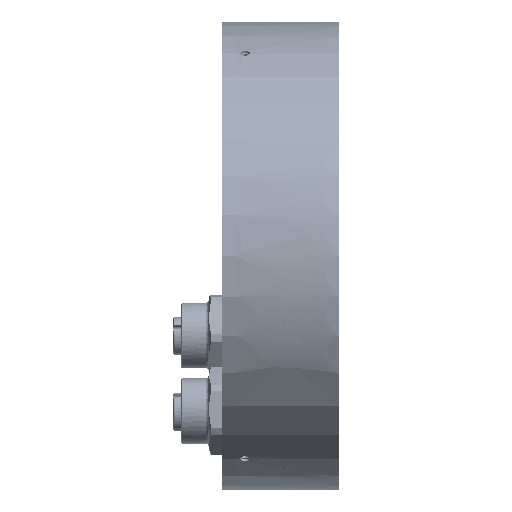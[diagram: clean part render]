
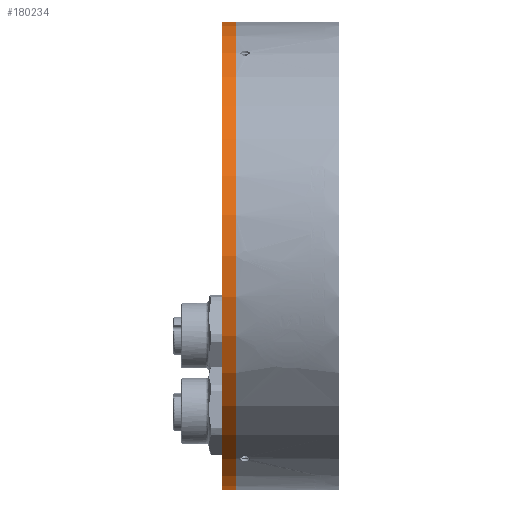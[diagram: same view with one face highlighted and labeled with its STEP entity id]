
A CAD part, front view. The second image highlights one B-rep face of the part: STEP entity #180234.
In plain terms, the highlighted cylindrical face has radius 50 mm (diameter 100 mm), a partial arc.
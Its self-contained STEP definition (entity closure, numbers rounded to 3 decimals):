
#9221 = VERTEX_POINT ( 'NONE', #74748 ) ;
#14225 = EDGE_LOOP ( 'NONE', ( #111917, #148657, #269518, #225859 ) ) ;
#21314 = DIRECTION ( 'NONE',  ( -1., 0., 0. ) ) ;
#23721 = CYLINDRICAL_SURFACE ( 'NONE', #78272, 50. ) ;
#29440 = AXIS2_PLACEMENT_3D ( 'NONE', #147427, #243060, #54920 ) ;
#30654 = VECTOR ( 'NONE', #104526, 1000. ) ;
#54920 = DIRECTION ( 'NONE',  ( 0., 0., 1. ) ) ;
#64718 = AXIS2_PLACEMENT_3D ( 'NONE', #222906, #197838, #105258 ) ;
#73741 = VERTEX_POINT ( 'NONE', #114935 ) ;
#74748 = CARTESIAN_POINT ( 'NONE',  ( 0., 0., 50. ) ) ;
#78272 = AXIS2_PLACEMENT_3D ( 'NONE', #145916, #269736, #291714 ) ;
#79511 = LINE ( 'NONE', #245658, #30654 ) ;
#88475 = CARTESIAN_POINT ( 'NONE',  ( -3., 0., 50. ) ) ;
#91287 = EDGE_CURVE ( 'NONE', #73741, #9221, #274880, .T. ) ;
#93103 = EDGE_CURVE ( 'NONE', #300810, #207483, #94277, .T. ) ;
#94277 = CIRCLE ( 'NONE', #29440, 50. ) ;
#104526 = DIRECTION ( 'NONE',  ( -1., 0., 0. ) ) ;
#105258 = DIRECTION ( 'NONE',  ( 0., 0., 1. ) ) ;
#111917 = ORIENTED_EDGE ( 'NONE', *, *, #185773, .F. ) ;
#114935 = CARTESIAN_POINT ( 'NONE',  ( 0., 0., -50. ) ) ;
#118326 = EDGE_CURVE ( 'NONE', #9221, #207483, #79511, .T. ) ;
#145916 = CARTESIAN_POINT ( 'NONE',  ( 6., 0., 0. ) ) ;
#147427 = CARTESIAN_POINT ( 'NONE',  ( -3., 0., 0. ) ) ;
#148657 = ORIENTED_EDGE ( 'NONE', *, *, #91287, .T. ) ;
#171712 = CARTESIAN_POINT ( 'NONE',  ( 6., 0., -50. ) ) ;
#174100 = FACE_OUTER_BOUND ( 'NONE', #14225, .T. ) ;
#180234 = ADVANCED_FACE ( 'NONE', ( #174100 ), #23721, .T. ) ;
#185773 = EDGE_CURVE ( 'NONE', #73741, #300810, #217209, .T. ) ;
#197838 = DIRECTION ( 'NONE',  ( -1., 0., 0. ) ) ;
#200293 = VECTOR ( 'NONE', #21314, 1000. ) ;
#207483 = VERTEX_POINT ( 'NONE', #88475 ) ;
#217209 = LINE ( 'NONE', #171712, #200293 ) ;
#222906 = CARTESIAN_POINT ( 'NONE',  ( 0., 0., 0. ) ) ;
#225859 = ORIENTED_EDGE ( 'NONE', *, *, #93103, .F. ) ;
#243060 = DIRECTION ( 'NONE',  ( -1., 0., 0. ) ) ;
#245658 = CARTESIAN_POINT ( 'NONE',  ( 6., 0., 50. ) ) ;
#247154 = CARTESIAN_POINT ( 'NONE',  ( -3., 0., -50. ) ) ;
#269518 = ORIENTED_EDGE ( 'NONE', *, *, #118326, .T. ) ;
#269736 = DIRECTION ( 'NONE',  ( -1., 0., 0. ) ) ;
#274880 = CIRCLE ( 'NONE', #64718, 50. ) ;
#291714 = DIRECTION ( 'NONE',  ( 0., 0., 1. ) ) ;
#300810 = VERTEX_POINT ( 'NONE', #247154 ) ;
